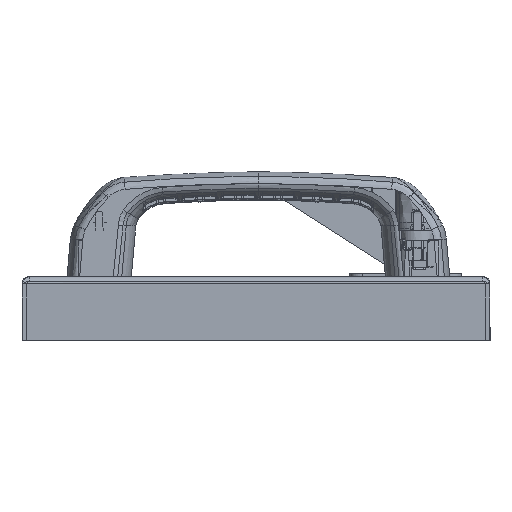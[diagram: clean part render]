
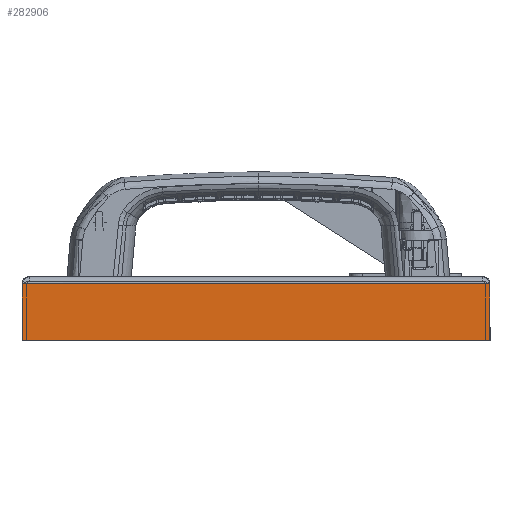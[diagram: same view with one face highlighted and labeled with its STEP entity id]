
A CAD part, left-side view. The second image highlights one B-rep face of the part: STEP entity #282906.
In plain terms, the highlighted planar face has unit normal (-1, 0, 0).
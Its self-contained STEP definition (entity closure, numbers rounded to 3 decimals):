
#278311=CARTESIAN_POINT(' ',(0.,147.,-2.3));
#278312=VERTEX_POINT(' ',#278311);
#278826=CARTESIAN_POINT(' ',(0.,147.,-2.3));
#278831=DIRECTION(' ',(0.,-1.,0.));
#278836=VECTOR(' ',#278831,1.);
#278841=LINE('',#278826,#278836);
#278846=CARTESIAN_POINT(' ',(0.,0.,-2.3));
#278847=VERTEX_POINT(' ',#278846);
#278851=EDGE_CURVE(' ',#278312,#278847,#278841,.T.);
#281506=CARTESIAN_POINT(' ',(0.,147.,-20.));
#281511=DIRECTION(' ',(0.,0.,1.));
#281516=VECTOR(' ',#281511,1.);
#281521=LINE('',#281506,#281516);
#281526=CARTESIAN_POINT(' ',(0.,147.,-20.));
#281527=VERTEX_POINT(' ',#281526);
#281531=EDGE_CURVE(' ',#281527,#278312,#281521,.T.);
#282796=DIRECTION(' ',(-1.,-0.,-0.));
#282801=CARTESIAN_POINT(' ',(0.,0.,-2.3));
#282806=DIRECTION(' ',(-0.,1.,0.));
#282811=AXIS2_PLACEMENT_3D(' ',#282801,#282796,#282806);
#282816=PLANE('NONE',#282811);
#282821=CARTESIAN_POINT(' ',(0.,0.,-20.));
#282826=DIRECTION(' ',(0.,0.,1.));
#282831=VECTOR(' ',#282826,1.);
#282836=LINE('',#282821,#282831);
#282841=CARTESIAN_POINT(' ',(0.,0.,-20.));
#282842=VERTEX_POINT(' ',#282841);
#282846=EDGE_CURVE(' ',#282842,#278847,#282836,.T.);
#282851=ORIENTED_EDGE(' ',*,*,#282846,.T.);
#282856=ORIENTED_EDGE(' ',*,*,#278851,.F.);
#282861=ORIENTED_EDGE(' ',*,*,#281531,.F.);
#282866=CARTESIAN_POINT(' ',(0.,147.,-20.));
#282871=DIRECTION(' ',(0.,-1.,0.));
#282876=VECTOR(' ',#282871,1.);
#282881=LINE('',#282866,#282876);
#282886=EDGE_CURVE(' ',#281527,#282842,#282881,.T.);
#282891=ORIENTED_EDGE(' ',*,*,#282886,.T.);
#282896=EDGE_LOOP(' ',(#282851,#282856,#282861,#282891));
#282901=FACE_OUTER_BOUND(' ',#282896,.T.);
#282906=ADVANCED_FACE('NONE',(#282901),#282816,.T.);
